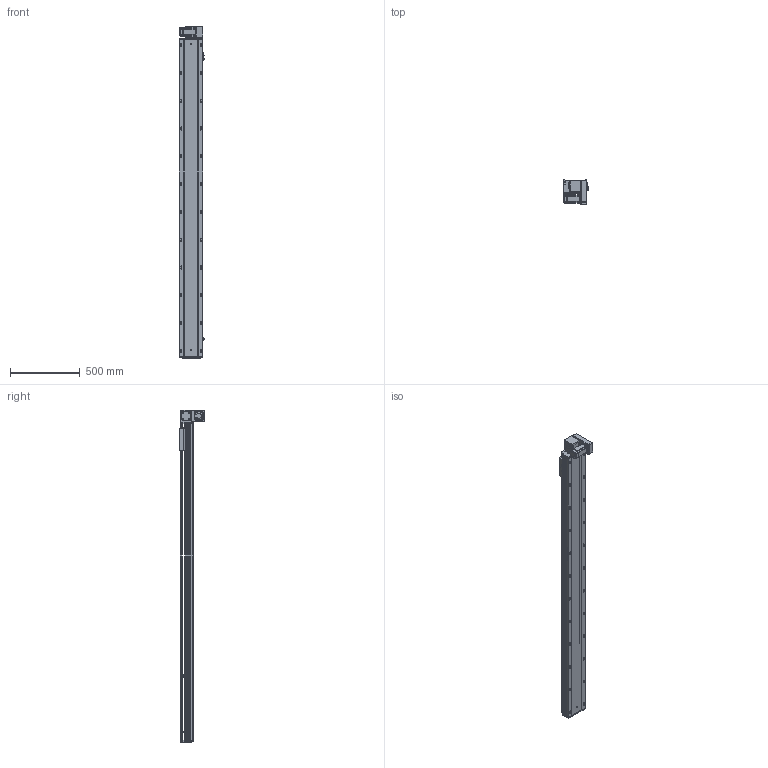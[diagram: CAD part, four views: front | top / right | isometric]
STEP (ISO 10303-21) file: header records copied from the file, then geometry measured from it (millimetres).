
FILE_DESCRIPTION (( 'STEP AP203' ), '1' );
FILE_NAME ('RY170-T-300-DR-P400W.SLDASM_2000.step', '2021-03-01T08:24:54', ( '盈信电脑' ), ( '东莞市道滘镇水果街19号' ), 'SwSTEP 2.0', 'SolidWorks 2012', '' );
FILE_SCHEMA (( 'CONFIG_CONTROL_DESIGN' ));
Products named in the file (19): 覜茼ん672; RY170綴裔啣; RY170-T-300肮祭謫倰第裔啣-DR_2000; RY170肮祭湍臏賑輸; RY170-T-300肮祭謫倰第菁釱-DR_2000; RY170-T-300-DR-P400W.SLDASM_2000; 15; 滅袉蝶18-10; RY170-T-呴雄粣揤踡啣; RY170-T蹟翐M4; RY120-T主同步轮轴承压盖; RY170-T肮祭謫裔啣; RY170肮祭謫萇儂欶; RY170-T肮祭湍揤踡輸2; RY170同步轮电机安装板(400W); RY170-T肮祭湍揤踡輸1; RY170翋肮祭謫釱; RY170肮祭謫ヶ裔啣; RY170外置感应片(200共用）
Assembly tree (23 placements, depth 2):
  RY170-T-300-DR-P400W.SLDASM_2000
    RY170-T-300肮祭謫倰第菁釱-DR_2000
    RY170肮祭湍臏賑輸
    RY170-T-300肮祭謫倰第裔啣-DR_2000
    RY170綴裔啣
    覜茼ん672  x3
    RY170外置感应片(200共用）
    RY170肮祭謫ヶ裔啣
    RY170翋肮祭謫釱
    RY170同步轮电机安装板(400W)
    RY170肮祭謫萇儂欶
    RY170-T肮祭湍揤踡輸1  x2
    RY170-T肮祭湍揤踡輸2  x2
    RY120-T主同步轮轴承压盖
    RY170-T肮祭謫裔啣
    RY170-T蹟翐M4
    滅袉蝶18-10  x2
    RY170-T-呴雄粣揤踡啣
    15
Bounding box: 183.7 x 178 x 2388 mm (x, y, z)
Volume: 11085671.8 mm3; surface area: 3820870.8 mm2
Topology: 23 solids, 23 shells, 3022 faces, 8478 edges, 5407 vertices
Faces by surface type: cylinder 1414, plane 1274, cone 304, bspline 30
Entity records: 92213 total; most frequent: CARTESIAN_POINT 21396, ORIENTED_EDGE 14528, DIRECTION 14146, EDGE_CURVE 7264, AXIS2_PLACEMENT_3D 5027, VERTEX_POINT 4763, LINE 4092, VECTOR 4092
